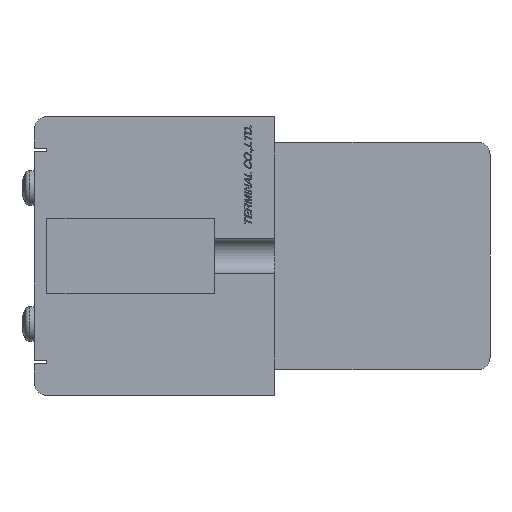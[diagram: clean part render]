
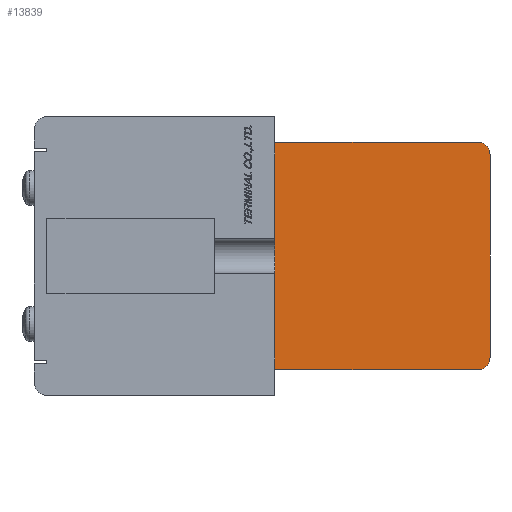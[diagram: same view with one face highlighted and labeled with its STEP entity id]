
A CAD part, left-side view. The second image highlights one B-rep face of the part: STEP entity #13839.
In plain terms, the highlighted planar face has unit normal (-1, 0, 0).
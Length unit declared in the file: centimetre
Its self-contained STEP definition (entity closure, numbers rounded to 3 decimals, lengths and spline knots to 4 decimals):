
#808=PLANE('',#14903);
#1228=CIRCLE('',#14898,0.2);
#1229=CIRCLE('',#14901,0.2);
#2590=VERTEX_POINT('',#22496);
#2591=VERTEX_POINT('',#22498);
#2598=VERTEX_POINT('',#22530);
#2599=VERTEX_POINT('',#22534);
#2600=VERTEX_POINT('',#22538);
#2601=VERTEX_POINT('',#22542);
#3923=VECTOR('',#17759,1.);
#3936=VECTOR('',#17787,1.);
#3939=VECTOR('',#17795,1.);
#3942=VECTOR('',#17803,1.);
#5245=LINE('',#22499,#3923);
#5258=LINE('',#22529,#3936);
#5261=LINE('',#22537,#3939);
#5264=LINE('',#22545,#3942);
#7207=EDGE_CURVE('',#2591,#2590,#5245,.T.);
#7222=EDGE_CURVE('',#2590,#2598,#5258,.T.);
#7224=EDGE_CURVE('',#2598,#2599,#1228,.T.);
#7226=EDGE_CURVE('',#2599,#2600,#5261,.T.);
#7228=EDGE_CURVE('',#2600,#2601,#1229,.T.);
#7230=EDGE_CURVE('',#2601,#2591,#5264,.T.);
#11158=ORIENTED_EDGE('',*,*,#7207,.F.);
#11159=ORIENTED_EDGE('',*,*,#7230,.F.);
#11160=ORIENTED_EDGE('',*,*,#7228,.F.);
#11161=ORIENTED_EDGE('',*,*,#7226,.F.);
#11162=ORIENTED_EDGE('',*,*,#7224,.F.);
#11163=ORIENTED_EDGE('',*,*,#7222,.F.);
#12182=EDGE_LOOP('',(#11158,#11159,#11160,#11161,#11162,#11163));
#13071=FACE_BOUND('',#12182,.T.);
#13839=ADVANCED_FACE('',(#13071),#808,.F.);
#14898=AXIS2_PLACEMENT_3D('',#22533,#17791,#17792);
#14901=AXIS2_PLACEMENT_3D('',#22541,#17799,#17800);
#14903=AXIS2_PLACEMENT_3D('',#22546,#17804,$);
#17759=DIRECTION('',(0.,0.,1.));
#17787=DIRECTION('',(0.,-1.,0.));
#17791=DIRECTION('',(1.,0.,0.));
#17792=DIRECTION('',(0.,0.,-0.2));
#17795=DIRECTION('',(0.,0.,-1.));
#17799=DIRECTION('',(1.,0.,0.));
#17800=DIRECTION('',(0.,0.,-0.2));
#17803=DIRECTION('',(0.,1.,0.));
#17804=DIRECTION('',(1.,0.,0.));
#22496=CARTESIAN_POINT('',(-0.4,0.,1.8));
#22498=CARTESIAN_POINT('',(-0.4,0.,-1.8));
#22499=CARTESIAN_POINT('',(-0.4,0.,1.8));
#22529=CARTESIAN_POINT('',(-0.4,-3.2,1.8));
#22530=CARTESIAN_POINT('',(-0.4,-3.2,1.8));
#22533=CARTESIAN_POINT('',(-0.4,-3.2,1.6));
#22534=CARTESIAN_POINT('',(-0.4,-3.4,1.6));
#22537=CARTESIAN_POINT('',(-0.4,-3.4,-1.6));
#22538=CARTESIAN_POINT('',(-0.4,-3.4,-1.6));
#22541=CARTESIAN_POINT('',(-0.4,-3.2,-1.6));
#22542=CARTESIAN_POINT('',(-0.4,-3.2,-1.8));
#22545=CARTESIAN_POINT('',(-0.4,0.,-1.8));
#22546=CARTESIAN_POINT('',(-0.4,-1.6784,0.));
